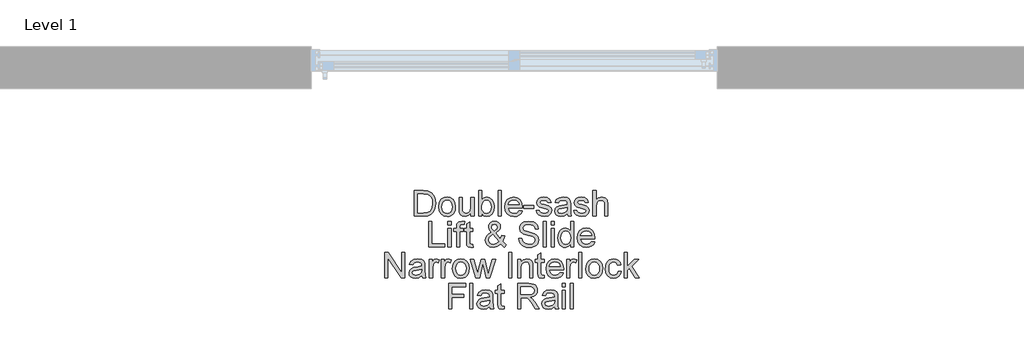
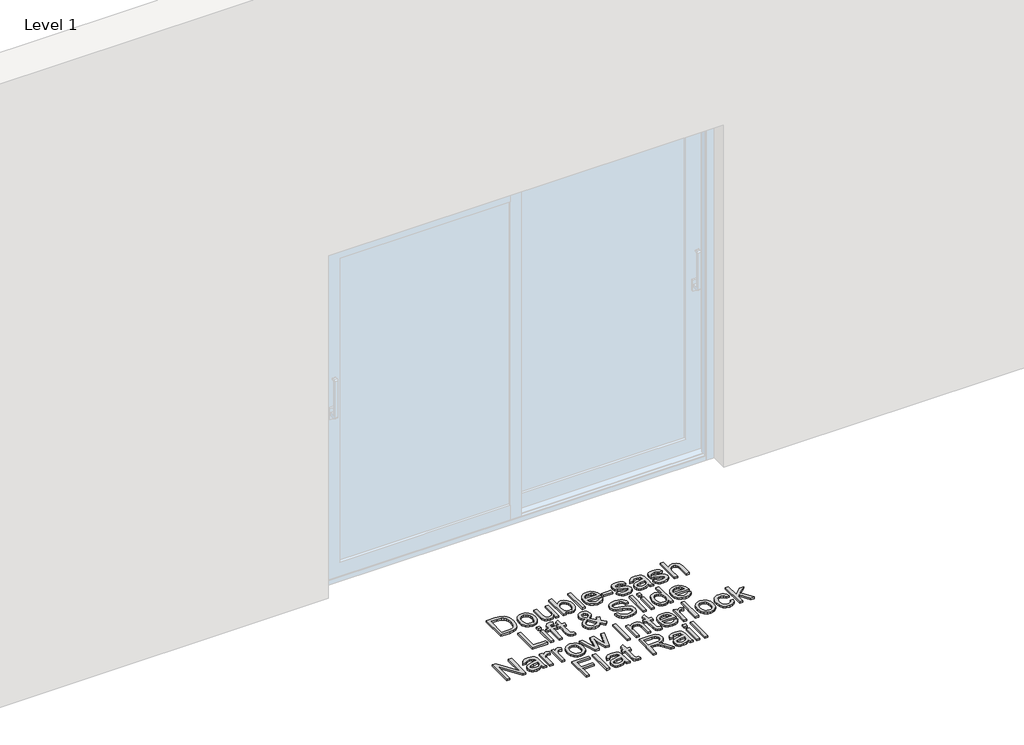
# One storey, part 4 of 11: 1 proxy.
"""IFC4 building model written with IfcOpenShell, lengths in millimetres."""

from ifc_helpers import new_model, si_unit, origin, origin_with_axes, place, context, project, spatial, polyline, outline, extrude, element, save

model = new_model("IFC4")

# Units and contexts
model_context = context("Model", 3, world=origin())
ifc_project = project(units=[si_unit("LENGTHUNIT", "METRE", prefix="MILLI")], contexts=[model_context])

# Site, building, storey
site = spatial("IfcSite", under=ifc_project)
building = spatial("IfcBuilding", under=site)
storey = spatial("IfcBuildingStorey", under=building, Name="Level 1", Elevation=0.0)

# Proxy
placement = place(None, origin())
element("IfcBuildingElementProxy", 1, Name="150mm Arial", ObjectType="150mm Arial", at=placement, inside=storey, context=model_context, shape_type="SweptSolid", body=[
    extrude(outline(polyline([(-1811.5990485, -897.6627533), (-1811.5990485, -746.9782881), (-1759.6173226, -746.9782881), (-1732.7251487, -749.1487919), (-1710.5786526, -759.9277343), (-1700.1583951, -771.4056526), (-1692.7363758, -785.679474), (-1688.2942007, -802.4732871), (-1686.8134757, -821.5111803), (-1690.8233895, -851.9166272), (-1701.1240853, -873.8607883), (-1714.8828719, -887.5276044), (-1732.8906956, -895.0875794), (-1757.115725, -897.6627533), (-1811.5990485, -897.6627533)]), holes=[polyline([(-1792.7634903, -878.8271952), (-1759.4333816, -878.8271952), (-1735.1899581, -876.1048684), (-1721.2104423, -868.4161347), (-1709.7509181, -849.7093353), (-1705.6490339, -821.2168747), (-1707.6585893, -800.6890594), (-1713.6872555, -785.5323212), (-1722.5945983, -775.1212607), (-1733.2401835, -768.8304786), (-1759.9484164, -765.8138463), (-1792.7634903, -765.8138463), (-1792.7634903, -878.8271952)])]), origin_with_axes(), (0.0, 0.0, 1.0), 10.0),
    extrude(outline(polyline([(-1667.9779176, -842.3333013), (-1663.9036245, -815.6526596), (-1651.6807452, -796.8998749), (-1636.5791893, -787.712022), (-1618.4977892, -784.6494044), (-1598.7103364, -788.3788081), (-1582.9052062, -799.5670193), (-1572.5447295, -817.3311212), (-1569.0912373, -840.7881969), (-1570.6179475, -859.8168931), (-1575.1980784, -874.3022466), (-1582.6982726, -885.150167), (-1592.9851728, -893.2665635), (-1605.2034536, -898.3295395), (-1618.4977892, -900.0171981), (-1638.5243653, -896.30159), (-1654.3111014, -885.1547655), (-1664.5612135, -867.0181831), (-1667.9779176, -842.3333013)]), holes=[polyline([(-1649.1423594, -842.2965131), (-1646.9626586, -859.343245), (-1640.4235561, -871.4879494), (-1630.5827127, -878.7582173), (-1618.4977892, -881.18164), (-1606.468048, -878.7444217), (-1596.6455987, -871.4327671), (-1590.1064962, -859.1271143), (-1587.9267954, -841.7079019), (-1590.1202918, -825.1578106), (-1596.700781, -813.1786531), (-1606.5370258, -805.9083852), (-1618.4977892, -803.4849626), (-1630.5827127, -805.8991882), (-1640.4235561, -813.141865), (-1646.9626586, -825.2589782), (-1649.1423594, -842.2965131)])]), origin_with_axes(), (0.0, 0.0, 1.0), 10.0),
    extrude(outline(polyline([(-1477.2678913, -897.6627533), (-1477.2678913, -878.6432542), (-1492.0199593, -894.6737121), (-1511.2601876, -900.0171981), (-1528.9737057, -896.2648018), (-1541.1873879, -886.8470227), (-1546.7975883, -872.9778715), (-1547.9012343, -855.4666885), (-1547.9012343, -787.0038492), (-1529.0656762, -787.0038492), (-1529.0656762, -846.6007324), (-1527.925242, -865.8041726), (-1520.4756316, -877.0797557), (-1506.4409335, -881.18164), (-1490.7139782, -876.9877852), (-1480.3213118, -865.5650493), (-1477.2678913, -844.5773814), (-1477.2678913, -787.0038492), (-1458.4323331, -787.0038492), (-1458.4323331, -897.6627533), (-1477.2678913, -897.6627533)])), origin_with_axes(), (0.0, 0.0, 1.0), 10.0),
    extrude(outline(polyline([(-1413.6978825, -897.6627533), (-1432.5334406, -897.6627533), (-1432.5334406, -746.9782881), (-1413.6978825, -746.9782881), (-1413.6978825, -802.8595632), (-1400.509313, -789.2019441), (-1384.1201701, -784.6494044), (-1365.2478237, -788.7512887), (-1350.6061203, -800.2843892), (-1341.6114055, -818.2186365), (-1338.3556499, -840.6778323), (-1341.7263687, -865.8225667), (-1351.838525, -884.5293661), (-1366.677965, -896.1452401), (-1384.2305347, -900.0171981), (-1400.9783625, -895.0232), (-1413.6978825, -880.0412058), (-1413.6978825, -897.6627533)]), holes=[polyline([(-1413.6978825, -841.5607491), (-1412.4102955, -857.2693103), (-1408.5475346, -867.9010999), (-1398.6791, -877.861505), (-1385.8492155, -881.18164), (-1374.9783025, -878.7352247), (-1365.6892821, -871.3959789), (-1359.3157266, -859.2098878), (-1357.191208, -842.2229367), (-1359.2283546, -824.9876652), (-1365.3397942, -812.9395299), (-1374.3391075, -805.8486044), (-1385.0398751, -803.4849626), (-1395.910788, -805.9313778), (-1405.1998084, -813.2706236), (-1411.573364, -825.2359855), (-1413.6978825, -841.5607491)])]), origin_with_axes(), (0.0, 0.0, 1.0), 10.0),
    extrude(outline(polyline([(-1317.165647, -897.6627533), (-1317.165647, -746.9782881), (-1298.3300888, -746.9782881), (-1298.3300888, -897.6627533), (-1317.165647, -897.6627533)])), origin_with_axes(), (0.0, 0.0, 1.0), 10.0),
    extrude(outline(polyline([(-1192.6008034, -864.7005266), (-1174.1331272, -867.0549713), (-1180.7871928, -880.9701078), (-1191.4051869, -891.3719712), (-1205.7479862, -897.8558914), (-1223.5764674, -900.0171981), (-1245.6769782, -896.2877944), (-1262.6823235, -885.0995832), (-1273.5256453, -867.1791315), (-1277.1400859, -843.2530063), (-1273.4888571, -818.5221391), (-1262.5351707, -800.0268718), (-1245.7597517, -788.4937713), (-1224.6433252, -784.6494044), (-1204.1844877, -788.4845742), (-1187.8367316, -799.9900836), (-1177.1175699, -818.4485627), (-1173.544516, -843.1426417), (-1173.6548806, -848.2194132), (-1258.3045277, -848.2194132), (-1255.0441735, -862.3184907), (-1247.470403, -872.6835659), (-1236.5397092, -879.0571214), (-1223.2085854, -881.18164), (-1204.7409092, -877.2453026), (-1192.6008034, -864.7005266)]), holes=[polyline([(-1258.3045277, -829.383855), (-1192.3800742, -829.383855), (-1194.927657, -819.4326471), (-1199.9216551, -812.3141305), (-1210.9029326, -805.6922545), (-1224.7169016, -803.4849626), (-1237.4134289, -805.2461976), (-1247.9118614, -810.5299028), (-1255.2097204, -818.765861), (-1258.3045277, -829.383855)])]), origin_with_axes(), (0.0, 0.0, 1.0), 10.0),
    extrude(outline(polyline([(-1164.126737, -852.9283027), (-1164.126737, -834.0927446), (-1105.2656177, -834.0927446), (-1105.2656177, -852.9283027), (-1164.126737, -852.9283027)])), origin_with_axes(), (0.0, 0.0, 1.0), 10.0),
    extrude(outline(polyline([(-1091.1389491, -864.7005266), (-1072.303391, -862.3460818), (-1069.3327439, -870.4026975), (-1063.5845877, -876.3255976), (-1043.6085953, -881.18164), (-1024.4051552, -876.7302678), (-1018.1511613, -866.2824192), (-1019.7238568, -861.4815591), (-1024.4419434, -857.8211333), (-1043.8293245, -852.4500561), (-1072.1930264, -843.2346122), (-1084.5722555, -832.4740638), (-1088.7845044, -817.2805374), (-1085.39999, -803.2458393), (-1076.1661519, -792.5220791), (-1064.191593, -786.9486669), (-1047.9863911, -784.6494044), (-1025.0673428, -788.3466185), (-1010.4992158, -798.3530087), (-1004.0244927, -815.2571864), (-1022.8600508, -817.6116312), (-1029.9417792, -807.2189648), (-1046.5148631, -803.4849626), (-1064.5410809, -807.0534179), (-1069.9489462, -815.367551), (-1067.704866, -820.8489927), (-1060.6783199, -825.0060593), (-1044.4547239, -829.015973), (-1016.808392, -837.8819291), (-1003.9693104, -847.9251076), (-999.3156031, -864.2958564), (-1004.7786508, -882.3220741), (-1020.5423942, -895.4002791), (-1043.8661127, -900.0171981), (-1062.8580207, -897.791512), (-1076.7179749, -891.1144538), (-1085.9702071, -880.0595999), (-1091.1389491, -864.7005266)])), origin_with_axes(), (0.0, 0.0, 1.0), 10.0),
    extrude(outline(polyline([(-907.4922571, -883.5360847), (-925.7575982, -896.30159), (-945.9359256, -900.0171981), (-961.6766765, -897.782315), (-973.287952, -891.0776656), (-980.4478553, -880.8965314), (-982.8344897, -868.2321937), (-979.2292462, -853.3329729), (-969.7562848, -842.5172423), (-956.5677153, -836.3368247), (-940.2705429, -833.5041334), (-907.6026217, -827.0294103), (-907.4922571, -822.8355555), (-908.7890412, -814.4294519), (-912.6793933, -808.9296161), (-921.3798024, -804.846126), (-933.5015142, -803.4849626), (-952.5578015, -807.1086002), (-961.6444868, -819.966076), (-980.480045, -817.6116312), (-972.3314588, -799.2175314), (-955.9239218, -788.438589), (-931.073493, -784.6494044), (-908.2464152, -787.9971306), (-895.3521513, -796.4032342), (-889.576404, -809.1871335), (-888.656699, -825.6682469), (-888.656699, -849.10233), (-887.7002058, -881.8254334), (-883.9478094, -897.6627533), (-902.7833676, -897.6627533), (-907.4922571, -883.5360847)]), holes=[polyline([(-907.4922571, -845.8649684), (-937.8793099, -851.6407157), (-954.0845118, -854.6941363), (-961.4237576, -859.6605432), (-963.9989316, -866.9078185), (-958.3887312, -877.0981498), (-941.9260119, -881.18164), (-922.8697245, -876.6750855), (-910.5824659, -865.7673844), (-907.6026217, -851.1992574), (-907.4922571, -845.8649684)])]), origin_with_axes(), (0.0, 0.0, 1.0), 10.0),
    extrude(outline(polyline([(-869.8211408, -864.7005266), (-850.9855827, -862.3460818), (-848.0149356, -870.4026975), (-842.2667794, -876.3255976), (-822.290787, -881.18164), (-803.0873469, -876.7302678), (-796.833353, -866.2824192), (-798.4060485, -861.4815591), (-803.1241351, -857.8211333), (-822.5115162, -852.4500561), (-850.8752181, -843.2346122), (-863.2544472, -832.4740638), (-867.4666961, -817.2805374), (-864.0821817, -803.2458393), (-854.8483436, -792.5220791), (-842.8737847, -786.9486669), (-826.6685828, -784.6494044), (-803.7495345, -788.3466185), (-789.1814075, -798.3530087), (-782.7066844, -815.2571864), (-801.5422425, -817.6116312), (-808.6239709, -807.2189648), (-825.1970548, -803.4849626), (-843.2232726, -807.0534179), (-848.6311379, -815.367551), (-846.3870577, -820.8489927), (-839.3605116, -825.0060593), (-823.1369156, -829.015973), (-795.4905837, -837.8819291), (-782.6515021, -847.9251076), (-777.9977948, -864.2958564), (-783.4608425, -882.3220741), (-799.2245859, -895.4002791), (-822.5483044, -900.0171981), (-841.5402124, -897.791512), (-855.4001666, -891.1144538), (-864.6523988, -880.0595999), (-869.8211408, -864.7005266)])), origin_with_axes(), (0.0, 0.0, 1.0), 10.0),
    extrude(outline(polyline([(-756.8077919, -897.6627533), (-756.8077919, -746.9782881), (-737.9722338, -746.9782881), (-737.9722338, -802.3813166), (-723.2845451, -789.0823825), (-705.193948, -784.6494044), (-684.0407333, -789.4870527), (-671.2016516, -802.8595632), (-667.3388907, -827.6180215), (-667.3388907, -897.6627533), (-686.1744488, -897.6627533), (-686.1744488, -829.567796), (-687.673568, -817.7771781), (-692.1709254, -809.7021683), (-699.4182007, -805.039264), (-709.1670735, -803.4849626), (-724.5997232, -807.6788173), (-734.9004191, -819.046371), (-737.9722338, -838.8752105), (-737.9722338, -897.6627533), (-756.8077919, -897.6627533)])), origin_with_axes(), (0.0, 0.0, 1.0), 10.0),
    extrude(outline(polyline([(-1726.8390368, -1080.6249801), (-1726.8390368, -929.9405149), (-1708.0034786, -929.9405149), (-1708.0034786, -1061.789422), (-1632.661246, -1061.789422), (-1632.661246, -1080.6249801), (-1726.8390368, -1080.6249801)])), origin_with_axes(), (0.0, 0.0, 1.0), 10.0),
    extrude(outline(polyline([(-1613.8256879, -948.776073), (-1613.8256879, -929.9405149), (-1594.9901297, -929.9405149), (-1594.9901297, -948.776073), (-1613.8256879, -948.776073)])), origin_with_axes(), (0.0, 0.0, 1.0), 10.0),
    extrude(outline(polyline([(-1613.8256879, -1080.6249801), (-1613.8256879, -969.966076), (-1594.9901297, -969.966076), (-1594.9901297, -1080.6249801), (-1613.8256879, -1080.6249801)])), origin_with_axes(), (0.0, 0.0, 1.0), 10.0),
    extrude(outline(polyline([(-1562.0279029, -1080.6249801), (-1562.0279029, -988.8016341), (-1578.5090163, -988.8016341), (-1578.5090163, -969.966076), (-1562.0279029, -969.966076), (-1562.0279029, -958.8192515), (-1560.0413402, -943.1106903), (-1550.4028319, -931.8902895), (-1531.4201209, -927.5860701), (-1514.2400318, -929.6462093), (-1516.9991467, -947.3045451), (-1527.8516656, -946.4216283), (-1539.7158599, -949.5486252), (-1543.1923448, -961.2104845), (-1543.1923448, -969.966076), (-1522.0023419, -969.966076), (-1522.0023419, -988.8016341), (-1543.1923448, -988.8016341), (-1543.1923448, -1080.6249801), (-1562.0279029, -1080.6249801)])), origin_with_axes(), (0.0, 0.0, 1.0), 10.0),
    extrude(outline(polyline([(-1465.4956674, -1064.9164189), (-1463.1412226, -1081.1768031), (-1477.2311031, -1082.9794249), (-1493.0132407, -1079.8524279), (-1500.8859153, -1071.6486594), (-1503.1667837, -1050.2747155), (-1503.1667837, -988.8016341), (-1517.2934523, -988.8016341), (-1517.2934523, -969.966076), (-1503.1667837, -969.966076), (-1503.1667837, -943.0739021), (-1484.3312256, -932.0006541), (-1484.3312256, -969.966076), (-1465.4956674, -969.966076), (-1465.4956674, -988.8016341), (-1484.3312256, -988.8016341), (-1484.3312256, -1049.7228925), (-1483.3379442, -1059.4349772), (-1480.1189767, -1062.8746738), (-1473.6994359, -1064.1438667), (-1465.4956674, -1064.9164189)])), origin_with_axes(), (0.0, 0.0, 1.0), 10.0),
    extrude(outline(polyline([(-1301.3835094, -1062.0101512), (-1321.3595017, -1077.7371064), (-1344.7200084, -1082.9794249), (-1365.5053411, -1079.0982698), (-1381.5082079, -1067.4548047), (-1389.7579617, -1054.054703), (-1392.5078796, -1039.1646793), (-1390.2959891, -1025.9669127), (-1383.6603176, -1014.1119154), (-1372.6284563, -1003.6088844), (-1357.2279962, -994.4670168), (-1370.3797776, -975.4107295), (-1373.6723214, -961.2840609), (-1371.0787533, -948.5645409), (-1363.2980492, -937.6292486), (-1351.5902047, -930.0968647), (-1337.2152157, -927.5860701), (-1323.5392025, -929.9865001), (-1312.6039102, -937.1877902), (-1305.4302113, -947.7552005), (-1303.0389783, -960.2539913), (-1304.8094104, -970.7478252), (-1310.1207067, -980.4507128), (-1331.365892, -997.4836492), (-1304.1058361, -1031.4391574), (-1295.975644, -1010.5802482), (-1277.1400859, -1014.6637384), (-1290.4574141, -1045.6761906), (-1267.7223068, -1068.4848743), (-1281.8489754, -1082.9794249), (-1301.3835094, -1062.0101512)]), holes=[polyline([(-1340.8940356, -985.6010608), (-1325.4062036, -973.9208074), (-1321.8745365, -962.8291653), (-1326.5282437, -951.0017591), (-1338.1717089, -946.4216283), (-1350.0726914, -950.9649709), (-1354.8367633, -962.0566131), (-1353.2180825, -968.9544005), (-1348.3252519, -976.6247401), (-1340.8940356, -985.6010608)]), polyline([(-1314.0018618, -1048.4353055), (-1347.6262762, -1006.4599699), (-1368.3196384, -1022.2421075), (-1373.6723214, -1036.6630817), (-1371.8421085, -1045.5474319), (-1366.3514697, -1054.7628758), (-1357.5039077, -1061.798619), (-1345.6029252, -1064.1438667), (-1328.2940773, -1059.766071), (-1314.0018618, -1048.4353055)])]), origin_with_axes(), (0.0, 0.0, 1.0), 10.0),
    extrude(outline(polyline([(-1194.734519, -1028.8271952), (-1175.8989608, -1028.8271952), (-1169.8289079, -1047.6811474), (-1155.0032635, -1059.6005241), (-1132.415309, -1064.1438667), (-1112.7336222, -1060.7041701), (-1100.0232993, -1051.2496028), (-1095.8478387, -1038.6128563), (-1098.9748356, -1026.8590265), (-1111.777129, -1018.3057701), (-1139.2027318, -1011.1136771), (-1168.7252619, -1001.8246567), (-1184.7465228, -987.8083527), (-1190.0256294, -969.0831592), (-1188.3931531, -958.0512978), (-1183.495724, -947.7643976), (-1175.4621009, -939.0455943), (-1164.4210426, -932.7180239), (-1136.4987991, -927.5860701), (-1106.7003575, -932.9571472), (-1095.2776216, -939.5882202), (-1086.8347298, -948.7392848), (-1081.4912438, -959.840124), (-1079.3667253, -972.3205207), (-1098.2022834, -972.3205207), (-1101.6603742, -961.0817258), (-1108.8708613, -952.9699278), (-1120.1372474, -948.0587031), (-1135.7630351, -946.4216283), (-1151.7567049, -948.040309), (-1162.7287854, -952.8963514), (-1169.0747498, -960.0424591), (-1171.1900713, -968.5313362), (-1169.6909521, -975.7694144), (-1165.1935947, -981.591147), (-1134.43866, -992.1125721), (-1101.1085512, -1001.5671393), (-1090.3709955, -1008.4005474), (-1082.8799983, -1016.8342421), (-1078.47921, -1026.7762531), (-1077.0122805, -1038.1346097), (-1078.6999392, -1049.7458851), (-1083.7629151, -1060.6673819), (-1091.9942748, -1070.0667668), (-1103.1870845, -1077.1117071), (-1116.646967, -1081.5124954), (-1131.679545, -1082.9794249), (-1150.1334256, -1081.3975323), (-1165.3223534, -1076.6518546), (-1177.4210726, -1068.7239976), (-1186.6043269, -1057.5955672), (-1192.4996358, -1044.0391157), (-1194.734519, -1028.8271952)])), origin_with_axes(), (0.0, 0.0, 1.0), 10.0),
    extrude(outline(polyline([(-1051.113388, -1080.6249801), (-1051.113388, -929.9405149), (-1032.2778299, -929.9405149), (-1032.2778299, -1080.6249801), (-1051.113388, -1080.6249801)])), origin_with_axes(), (0.0, 0.0, 1.0), 10.0),
    extrude(outline(polyline([(-1004.0244927, -948.776073), (-1004.0244927, -929.9405149), (-985.1889345, -929.9405149), (-985.1889345, -948.776073), (-1004.0244927, -948.776073)])), origin_with_axes(), (0.0, 0.0, 1.0), 10.0),
    extrude(outline(polyline([(-1004.0244927, -1080.6249801), (-1004.0244927, -969.966076), (-985.1889345, -969.966076), (-985.1889345, -1080.6249801), (-1004.0244927, -1080.6249801)])), origin_with_axes(), (0.0, 0.0, 1.0), 10.0),
    extrude(outline(polyline([(-888.656699, -1080.6249801), (-888.656699, -1062.8562797), (-901.1187016, -1077.9486386), (-918.344776, -1082.9794249), (-930.52167, -1081.158409), (-941.6684945, -1075.6953614), (-951.1046677, -1066.9719596), (-958.1496079, -1055.3698811), (-962.5366007, -1041.3581756), (-963.9989316, -1025.4058926), (-958.6094604, -995.42351), (-951.8772198, -983.5317245), (-942.4594408, -974.7853301), (-931.0688945, -969.4050559), (-918.4183524, -967.6116312), (-901.0543222, -972.743585), (-888.656699, -986.0793073), (-888.656699, -929.9405149), (-869.8211408, -929.9405149), (-869.8211408, -1080.6249801), (-888.656699, -1080.6249801)]), holes=[polyline([(-945.1633734, -1025.3323162), (-943.0388549, -1042.3698511), (-936.6652993, -1054.4869644), (-927.4038701, -1061.7296411), (-916.6157306, -1064.1438667), (-905.8321896, -1061.8400057), (-896.8052852, -1054.9284227), (-890.6938455, -1043.2803591), (-888.656699, -1026.767056), (-890.7306337, -1008.7132471), (-896.952438, -996.1960622), (-906.2092687, -988.8844076), (-917.3882828, -986.4471893), (-928.2867869, -988.7878385), (-937.2171223, -995.8097861), (-943.1768107, -1007.871717), (-945.1633734, -1025.3323162)])]), origin_with_axes(), (0.0, 0.0, 1.0), 10.0),
    extrude(outline(polyline([(-764.0918554, -1047.6627533), (-745.6241792, -1050.0171981), (-752.2782448, -1063.9323346), (-762.8962389, -1074.334198), (-777.2390382, -1080.8181182), (-795.0675194, -1082.9794249), (-817.1680303, -1079.2500212), (-834.1733755, -1068.06181), (-845.0166973, -1050.1413583), (-848.6311379, -1026.215233), (-844.9799091, -1001.4843659), (-834.0262227, -982.9890986), (-817.2508037, -971.455998), (-796.1343772, -967.6116312), (-775.6755397, -971.446801), (-759.3277836, -982.9523104), (-748.6086219, -1001.4107895), (-745.0355681, -1026.1048684), (-745.1459327, -1031.18164), (-829.7955797, -1031.18164), (-826.5352256, -1045.2807174), (-818.961455, -1055.6457926), (-808.0307612, -1062.0193482), (-794.6996374, -1064.1438667), (-776.2319612, -1060.2075294), (-764.0918554, -1047.6627533)]), holes=[polyline([(-829.7955797, -1012.3460818), (-763.8711262, -1012.3460818), (-766.418709, -1002.3948738), (-771.4127071, -995.2763572), (-782.3939847, -988.6544813), (-796.2079536, -986.4471893), (-808.9044809, -988.2084244), (-819.4029134, -993.4921296), (-826.7007725, -1001.7280877), (-829.7955797, -1012.3460818)])]), origin_with_axes(), (0.0, 0.0, 1.0), 10.0),
    extrude(outline(polyline([(-1987.0051838, -1263.5872069), (-1987.0051838, -1112.9027417), (-1966.8452504, -1112.9027417), (-1888.1185035, -1232.2804491), (-1888.1185035, -1112.9027417), (-1869.2829453, -1112.9027417), (-1869.2829453, -1263.5872069), (-1889.4428787, -1263.5872069), (-1968.1696256, -1144.1727112), (-1968.1696256, -1263.5872069), (-1987.0051838, -1263.5872069)])), origin_with_axes(), (0.0, 0.0, 1.0), 10.0),
    extrude(outline(polyline([(-1768.0418202, -1249.4605383), (-1786.3071613, -1262.2260435), (-1806.4854887, -1265.9416516), (-1822.2262396, -1263.7067685), (-1833.8375151, -1257.0021192), (-1840.9974184, -1246.8209849), (-1843.3840529, -1234.1566473), (-1839.7788093, -1219.2574265), (-1830.3058479, -1208.4416958), (-1817.1172784, -1202.2612783), (-1800.820106, -1199.4285869), (-1768.1521848, -1192.9538638), (-1768.0418202, -1188.7600091), (-1769.3386043, -1180.3539055), (-1773.2289564, -1174.8540696), (-1781.9293656, -1170.7705795), (-1794.0510773, -1169.4094161), (-1813.1073647, -1173.0330538), (-1822.1940499, -1185.8905295), (-1841.0296081, -1183.5360847), (-1832.8810219, -1165.141985), (-1816.4734849, -1154.3630425), (-1791.6230561, -1150.573858), (-1768.7959783, -1153.9215841), (-1755.9017144, -1162.3276877), (-1750.1259671, -1175.111587), (-1749.2062621, -1191.5927004), (-1749.2062621, -1215.0267835), (-1748.2497689, -1247.749887), (-1744.4973726, -1263.5872069), (-1763.3329307, -1263.5872069), (-1768.0418202, -1249.4605383)]), holes=[polyline([(-1768.0418202, -1211.789422), (-1798.428873, -1217.5651693), (-1814.6340749, -1220.6185898), (-1821.9733207, -1225.5849968), (-1824.5484947, -1232.8322721), (-1818.9382943, -1243.0226033), (-1802.475575, -1247.1060935), (-1783.4192876, -1242.5995391), (-1771.132029, -1231.6918379), (-1768.1521848, -1217.1237109), (-1768.0418202, -1211.789422)])]), origin_with_axes(), (0.0, 0.0, 1.0), 10.0),
    extrude(outline(polyline([(-1723.3073696, -1263.5872069), (-1723.3073696, -1152.9283027), (-1706.8262562, -1152.9283027), (-1706.8262562, -1169.2990515), (-1695.1276088, -1154.2158897), (-1683.355385, -1150.573858), (-1664.4462504, -1156.3863935), (-1670.7370325, -1173.2721771), (-1683.9807843, -1169.4094161), (-1694.6309681, -1173.1250243), (-1701.4183909, -1183.4257201), (-1704.4718115, -1205.4250634), (-1704.4718115, -1263.5872069), (-1723.3073696, -1263.5872069)])), origin_with_axes(), (0.0, 0.0, 1.0), 10.0),
    extrude(outline(polyline([(-1652.6740266, -1263.5872069), (-1652.6740266, -1152.9283027), (-1636.1929132, -1152.9283027), (-1636.1929132, -1169.2990515), (-1624.4942657, -1154.2158897), (-1612.7220419, -1150.573858), (-1593.8129073, -1156.3863935), (-1600.1036894, -1173.2721771), (-1613.3474413, -1169.4094161), (-1623.997625, -1173.1250243), (-1630.7850478, -1183.4257201), (-1633.8384684, -1205.4250634), (-1633.8384684, -1263.5872069), (-1652.6740266, -1263.5872069)])), origin_with_axes(), (0.0, 0.0, 1.0), 10.0),
    extrude(outline(polyline([(-1586.749573, -1208.2577548), (-1582.6752799, -1181.5771131), (-1570.4524006, -1162.8243284), (-1555.3508447, -1153.6364756), (-1537.2694447, -1150.573858), (-1517.4819919, -1154.3032617), (-1501.6768616, -1165.4914729), (-1491.3163849, -1183.2555747), (-1487.8628927, -1206.7126504), (-1489.389603, -1225.7413466), (-1493.9697338, -1240.2267002), (-1501.469928, -1251.0746205), (-1511.7568283, -1259.191017), (-1523.9751091, -1264.253993), (-1537.2694447, -1265.9416516), (-1557.2960208, -1262.2260435), (-1573.0827569, -1251.079219), (-1583.332869, -1232.9426367), (-1586.749573, -1208.2577548)]), holes=[polyline([(-1567.9140149, -1208.2209666), (-1565.734314, -1225.2676986), (-1559.1952116, -1237.4124029), (-1549.3543682, -1244.6826709), (-1537.2694447, -1247.1060935), (-1525.2397034, -1244.6688753), (-1515.4172542, -1237.3572206), (-1508.8781517, -1225.0515679), (-1506.6984509, -1207.6323554), (-1508.8919473, -1191.0822642), (-1515.4724365, -1179.1031067), (-1525.3086813, -1171.8328388), (-1537.2694447, -1169.4094161), (-1549.3543682, -1171.8236417), (-1559.1952116, -1179.0663185), (-1565.734314, -1191.1834317), (-1567.9140149, -1208.2209666)])]), origin_with_axes(), (0.0, 0.0, 1.0), 10.0),
    extrude(outline(polyline([(-1448.3155782, -1263.5872069), (-1481.9767808, -1152.9283027), (-1462.4054587, -1152.9283027), (-1443.3123831, -1217.4915929), (-1437.6102122, -1240.557794), (-1432.9381108, -1218.3377215), (-1417.7445844, -1152.9283027), (-1395.3037827, -1152.9283027), (-1380.1838327, -1218.1537805), (-1376.0267662, -1238.2769256), (-1370.0670779, -1217.0501345), (-1350.9372141, -1152.9283027), (-1331.2923156, -1152.9283027), (-1365.2110355, -1263.5872069), (-1387.982931, -1263.5872069), (-1402.4406934, -1198.6928229), (-1406.6345482, -1178.4593132), (-1425.2861653, -1263.5872069), (-1448.3155782, -1263.5872069)])), origin_with_axes(), (0.0, 0.0, 1.0), 10.0),
    extrude(outline(polyline([(-1254.7728606, -1263.5872069), (-1254.7728606, -1112.9027417), (-1235.9373024, -1112.9027417), (-1235.9373024, -1263.5872069), (-1254.7728606, -1263.5872069)])), origin_with_axes(), (0.0, 0.0, 1.0), 10.0),
    extrude(outline(polyline([(-1200.6206309, -1263.5872069), (-1200.6206309, -1152.9283027), (-1181.7850727, -1152.9283027), (-1181.7850727, -1168.3793465), (-1167.3824926, -1155.0252301), (-1147.7192, -1150.573858), (-1129.9321055, -1154.1607074), (-1117.7919997, -1163.5784865), (-1112.145011, -1177.4292436), (-1111.1517297, -1195.6394024), (-1111.1517297, -1263.5872069), (-1129.9872878, -1263.5872069), (-1129.9872878, -1198.1777881), (-1132.1577916, -1181.5127338), (-1139.8281312, -1172.70196), (-1152.7591833, -1169.4094161), (-1163.7910446, -1171.2580231), (-1173.1950281, -1176.8038442), (-1179.6375616, -1187.5184073), (-1181.7850727, -1204.8732404), (-1181.7850727, -1263.5872069), (-1200.6206309, -1263.5872069)])), origin_with_axes(), (0.0, 0.0, 1.0), 10.0),
    extrude(outline(polyline([(-1045.2272761, -1247.8786457), (-1042.8728314, -1264.1390299), (-1056.9627118, -1265.9416516), (-1072.7448494, -1262.8146547), (-1080.6175241, -1254.6108862), (-1082.8983924, -1233.2369423), (-1082.8983924, -1171.7638609), (-1097.025061, -1171.7638609), (-1097.025061, -1152.9283027), (-1082.8983924, -1152.9283027), (-1082.8983924, -1126.0361289), (-1064.0628343, -1114.9628808), (-1064.0628343, -1152.9283027), (-1045.2272761, -1152.9283027), (-1045.2272761, -1171.7638609), (-1064.0628343, -1171.7638609), (-1064.0628343, -1232.6851193), (-1063.0695529, -1242.397204), (-1059.8505854, -1245.8369006), (-1053.4310446, -1247.1060935), (-1045.2272761, -1247.8786457)])), origin_with_axes(), (0.0, 0.0, 1.0), 10.0),
    extrude(outline(polyline([(-948.9157698, -1230.6249801), (-930.4480936, -1232.9794249), (-937.1021592, -1246.8945613), (-947.7201533, -1257.2964248), (-962.0629526, -1263.7803449), (-979.8914338, -1265.9416516), (-1001.9919446, -1262.2122479), (-1018.9972899, -1251.0240367), (-1029.8406117, -1233.1035851), (-1033.4550523, -1209.1774598), (-1029.8038235, -1184.4465927), (-1018.8501371, -1165.9513254), (-1002.0747181, -1154.4182248), (-980.9582916, -1150.573858), (-960.4994541, -1154.4090278), (-944.1516979, -1165.9145372), (-933.4325363, -1184.3730163), (-929.8594824, -1209.0670952), (-929.969847, -1214.1438667), (-1014.6194941, -1214.1438667), (-1011.3591399, -1228.2429442), (-1003.7853694, -1238.6080194), (-992.8546756, -1244.981575), (-979.5235518, -1247.1060935), (-961.0558756, -1243.1697561), (-948.9157698, -1230.6249801)]), holes=[polyline([(-1014.6194941, -1195.3083086), (-948.6950406, -1195.3083086), (-951.2426234, -1185.3571006), (-956.2366215, -1178.238584), (-967.217899, -1171.6167081), (-981.031868, -1169.4094161), (-993.7283953, -1171.1706512), (-1004.2268278, -1176.4543563), (-1011.5246868, -1184.6903145), (-1014.6194941, -1195.3083086)])]), origin_with_axes(), (0.0, 0.0, 1.0), 10.0),
    extrude(outline(polyline([(-911.0239243, -1263.5872069), (-911.0239243, -1152.9283027), (-894.5428109, -1152.9283027), (-894.5428109, -1169.2990515), (-882.8441635, -1154.2158897), (-871.0719396, -1150.573858), (-852.1628051, -1156.3863935), (-858.4535872, -1173.2721771), (-871.697339, -1169.4094161), (-882.3475228, -1173.1250243), (-889.1349456, -1183.4257201), (-892.1883661, -1205.4250634), (-892.1883661, -1263.5872069), (-911.0239243, -1263.5872069)])), origin_with_axes(), (0.0, 0.0, 1.0), 10.0),
    extrude(outline(polyline([(-840.3905812, -1263.5872069), (-840.3905812, -1112.9027417), (-821.5550231, -1112.9027417), (-821.5550231, -1263.5872069), (-840.3905812, -1263.5872069)])), origin_with_axes(), (0.0, 0.0, 1.0), 10.0),
    extrude(outline(polyline([(-798.0105754, -1208.2577548), (-793.9362823, -1181.5771131), (-781.713403, -1162.8243284), (-766.6118471, -1153.6364756), (-748.530447, -1150.573858), (-728.7429942, -1154.3032617), (-712.937864, -1165.4914729), (-702.5773873, -1183.2555747), (-699.1238951, -1206.7126504), (-700.6506053, -1225.7413466), (-705.2307362, -1240.2267002), (-712.7309304, -1251.0746205), (-723.0178306, -1259.191017), (-735.2361114, -1264.253993), (-748.530447, -1265.9416516), (-768.5570231, -1262.2260435), (-784.3437592, -1251.079219), (-794.5938713, -1232.9426367), (-798.0105754, -1208.2577548)]), holes=[polyline([(-779.1750172, -1208.2209666), (-776.9953164, -1225.2676986), (-770.4562139, -1237.4124029), (-760.6153706, -1244.6826709), (-748.530447, -1247.1060935), (-736.5007058, -1244.6688753), (-726.6782565, -1237.3572206), (-720.139154, -1225.0515679), (-717.9594532, -1207.6323554), (-720.1529496, -1191.0822642), (-726.7334388, -1179.1031067), (-736.5696836, -1171.8328388), (-748.530447, -1169.4094161), (-760.6153706, -1171.8236417), (-770.4562139, -1179.0663185), (-776.9953164, -1191.1834317), (-779.1750172, -1208.2209666)])]), origin_with_axes(), (0.0, 0.0, 1.0), 10.0),
    extrude(outline(polyline([(-607.3005491, -1223.5616458), (-588.4649909, -1225.9160906), (-593.7165064, -1242.6685169), (-603.5849409, -1255.3282561), (-617.1413924, -1263.2883028), (-633.4569589, -1265.9416516), (-653.4927321, -1262.2398391), (-669.1599066, -1251.1344013), (-679.2720629, -1233.1127821), (-682.6427817, -1208.662425), (-681.2034434, -1191.9008016), (-676.8854285, -1177.3740613), (-669.619759, -1165.6432242), (-659.3374573, -1157.2693103), (-647.0364031, -1152.247721), (-633.7144763, -1150.573858), (-617.7989815, -1152.8731204), (-605.074863, -1159.7709078), (-595.946791, -1170.8993382), (-590.8194357, -1185.8905295), (-609.6549938, -1188.2449743), (-618.3921912, -1174.1366998), (-633.5673235, -1169.4094161), (-645.739619, -1171.7362697), (-655.4011199, -1178.7168306), (-661.7056976, -1190.7281777), (-663.8072235, -1208.1473902), (-661.7516829, -1225.8011274), (-655.5850609, -1237.8538613), (-646.098304, -1244.7930354), (-634.0823583, -1247.1060935), (-624.3288869, -1245.6621567), (-616.332052, -1241.3303462), (-610.514918, -1234.0002974), (-607.3005491, -1223.5616458)])), origin_with_axes(), (0.0, 0.0, 1.0), 10.0),
    extrude(outline(polyline([(-571.9838775, -1263.5872069), (-571.9838775, -1112.9027417), (-553.1483194, -1112.9027417), (-553.1483194, -1193.8735688), (-510.9154663, -1152.9283027), (-484.8694211, -1152.9283027), (-527.6173089, -1194.3886036), (-482.5149763, -1263.5872069), (-504.5143196, -1263.5872069), (-541.1185781, -1207.4852026), (-553.1483194, -1219.1470619), (-553.1483194, -1263.5872069), (-571.9838775, -1263.5872069)])), origin_with_axes(), (0.0, 0.0, 1.0), 10.0),
    extrude(outline(polyline([(-1609.1167983, -1446.5494336), (-1609.1167983, -1295.8649684), (-1507.8756733, -1295.8649684), (-1507.8756733, -1314.7005266), (-1590.2812402, -1314.7005266), (-1590.2812402, -1359.4349772), (-1519.6478971, -1359.4349772), (-1519.6478971, -1378.2705353), (-1590.2812402, -1378.2705353), (-1590.2812402, -1446.5494336), (-1609.1167983, -1446.5494336)])), origin_with_axes(), (0.0, 0.0, 1.0), 10.0),
    extrude(outline(polyline([(-1484.3312256, -1446.5494336), (-1484.3312256, -1295.8649684), (-1465.4956674, -1295.8649684), (-1465.4956674, -1446.5494336), (-1484.3312256, -1446.5494336)])), origin_with_axes(), (0.0, 0.0, 1.0), 10.0),
    extrude(outline(polyline([(-1366.6089871, -1432.422765), (-1384.8743282, -1445.1882703), (-1405.0526556, -1448.9038784), (-1420.7934065, -1446.6689953), (-1432.4046819, -1439.9643459), (-1439.5645853, -1429.7832117), (-1441.9512197, -1417.118874), (-1438.3459762, -1402.2196532), (-1428.8730148, -1391.4039226), (-1415.6844453, -1385.223505), (-1399.3872729, -1382.3908137), (-1366.7193517, -1375.9160906), (-1366.6089871, -1371.7222358), (-1367.9057711, -1363.3161322), (-1371.7961232, -1357.8162964), (-1380.4965324, -1353.7328063), (-1392.6182442, -1352.3716429), (-1411.6745315, -1355.9952805), (-1420.7612168, -1368.8527563), (-1439.596775, -1366.4983115), (-1431.4481888, -1348.1042117), (-1415.0406518, -1337.3252693), (-1390.190223, -1333.5360847), (-1367.3631452, -1336.8838109), (-1354.4688813, -1345.2899145), (-1348.6931339, -1358.0738138), (-1347.773429, -1374.5549272), (-1347.773429, -1397.9890103), (-1346.8169358, -1430.7121138), (-1343.0645394, -1446.5494336), (-1361.9000976, -1446.5494336), (-1366.6089871, -1432.422765)]), holes=[polyline([(-1366.6089871, -1394.7516487), (-1396.9960399, -1400.527396), (-1413.2012418, -1403.5808166), (-1420.5404876, -1408.5472235), (-1423.1156616, -1415.7944988), (-1417.5054611, -1425.9848301), (-1401.0427419, -1430.0683203), (-1381.9864545, -1425.5617658), (-1369.6991959, -1414.6540647), (-1366.7193517, -1400.0859377), (-1366.6089871, -1394.7516487)])]), origin_with_axes(), (0.0, 0.0, 1.0), 10.0),
    extrude(outline(polyline([(-1281.8489754, -1430.8408725), (-1279.4945307, -1447.1012566), (-1293.5844111, -1448.9038784), (-1309.3665487, -1445.7768815), (-1317.2392234, -1437.573113), (-1319.5200917, -1416.199169), (-1319.5200917, -1354.7260876), (-1333.6467603, -1354.7260876), (-1333.6467603, -1335.8905295), (-1319.5200917, -1335.8905295), (-1319.5200917, -1308.9983556), (-1300.6845336, -1297.9251076), (-1300.6845336, -1335.8905295), (-1281.8489754, -1335.8905295), (-1281.8489754, -1354.7260876), (-1300.6845336, -1354.7260876), (-1300.6845336, -1415.6473461), (-1299.6912522, -1425.3594307), (-1296.4722847, -1428.7991274), (-1290.0527439, -1430.0683203), (-1281.8489754, -1430.8408725)])), origin_with_axes(), (0.0, 0.0, 1.0), 10.0),
    extrude(outline(polyline([(-1201.7978533, -1446.5494336), (-1201.7978533, -1295.8649684), (-1136.8666811, -1295.8649684), (-1106.7187516, -1299.9300645), (-1097.4389283, -1305.558659), (-1090.2376382, -1314.3142505), (-1085.6161207, -1325.1713679), (-1084.0756148, -1337.1045401), (-1086.6277962, -1351.9485786), (-1094.2843402, -1364.2542313), (-1107.2751731, -1373.2765373), (-1125.8302213, -1378.2705353), (-1115.1248552, -1386.327151), (-1099.8577524, -1405.7145322), (-1074.7314121, -1446.5494336), (-1096.6203908, -1446.5494336), (-1116.2285012, -1415.3162523), (-1130.391958, -1394.6412841), (-1140.343166, -1384.8740172), (-1149.3010926, -1381.2871677), (-1160.2271878, -1380.6249801), (-1182.9622951, -1380.6249801), (-1182.9622951, -1446.5494336), (-1201.7978533, -1446.5494336)]), holes=[polyline([(-1182.9622951, -1361.789422), (-1140.8030185, -1361.789422), (-1119.3003159, -1359.1222775), (-1107.0866336, -1350.5874152), (-1102.911173, -1337.8035159), (-1104.9023343, -1328.615663), (-1110.8758182, -1321.2120379), (-1121.1535214, -1316.3284044), (-1136.0573407, -1314.7005266), (-1182.9622951, -1314.7005266), (-1182.9622951, -1361.789422)])]), origin_with_axes(), (0.0, 0.0, 1.0), 10.0),
    extrude(outline(polyline([(-982.8344897, -1432.422765), (-1001.0998308, -1445.1882703), (-1021.2781582, -1448.9038784), (-1037.0189091, -1446.6689953), (-1048.6301846, -1439.9643459), (-1055.7900879, -1429.7832117), (-1058.1767224, -1417.118874), (-1054.5714788, -1402.2196532), (-1045.0985174, -1391.4039226), (-1031.9099479, -1385.223505), (-1015.6127755, -1382.3908137), (-982.9448543, -1375.9160906), (-982.8344897, -1371.7222358), (-984.1312738, -1363.3161322), (-988.0216259, -1357.8162964), (-996.7220351, -1353.7328063), (-1008.8437468, -1352.3716429), (-1027.9000341, -1355.9952805), (-1036.9867194, -1368.8527563), (-1055.8222776, -1366.4983115), (-1047.6736914, -1348.1042117), (-1031.2661544, -1337.3252693), (-1006.4157256, -1333.5360847), (-983.5886478, -1336.8838109), (-970.6943839, -1345.2899145), (-964.9186366, -1358.0738138), (-963.9989316, -1374.5549272), (-963.9989316, -1397.9890103), (-963.0424384, -1430.7121138), (-959.290042, -1446.5494336), (-978.1256002, -1446.5494336), (-982.8344897, -1432.422765)]), holes=[polyline([(-982.8344897, -1394.7516487), (-1013.2215425, -1400.527396), (-1029.4267444, -1403.5808166), (-1036.7659902, -1408.5472235), (-1039.3411642, -1415.7944988), (-1033.7309638, -1425.9848301), (-1017.2682445, -1430.0683203), (-998.2119571, -1425.5617658), (-985.9246985, -1414.6540647), (-982.9448543, -1400.0859377), (-982.8344897, -1394.7516487)])]), origin_with_axes(), (0.0, 0.0, 1.0), 10.0),
    extrude(outline(polyline([(-938.1000391, -1314.7005266), (-938.1000391, -1295.8649684), (-919.264481, -1295.8649684), (-919.264481, -1314.7005266), (-938.1000391, -1314.7005266)])), origin_with_axes(), (0.0, 0.0, 1.0), 10.0),
    extrude(outline(polyline([(-938.1000391, -1446.5494336), (-938.1000391, -1335.8905295), (-919.264481, -1335.8905295), (-919.264481, -1446.5494336), (-938.1000391, -1446.5494336)])), origin_with_axes(), (0.0, 0.0, 1.0), 10.0),
    extrude(outline(polyline([(-891.0111437, -1446.5494336), (-891.0111437, -1295.8649684), (-872.1755856, -1295.8649684), (-872.1755856, -1446.5494336), (-891.0111437, -1446.5494336)])), origin_with_axes(), (0.0, 0.0, 1.0), 10.0),
])

save(model, "model.ifc")
